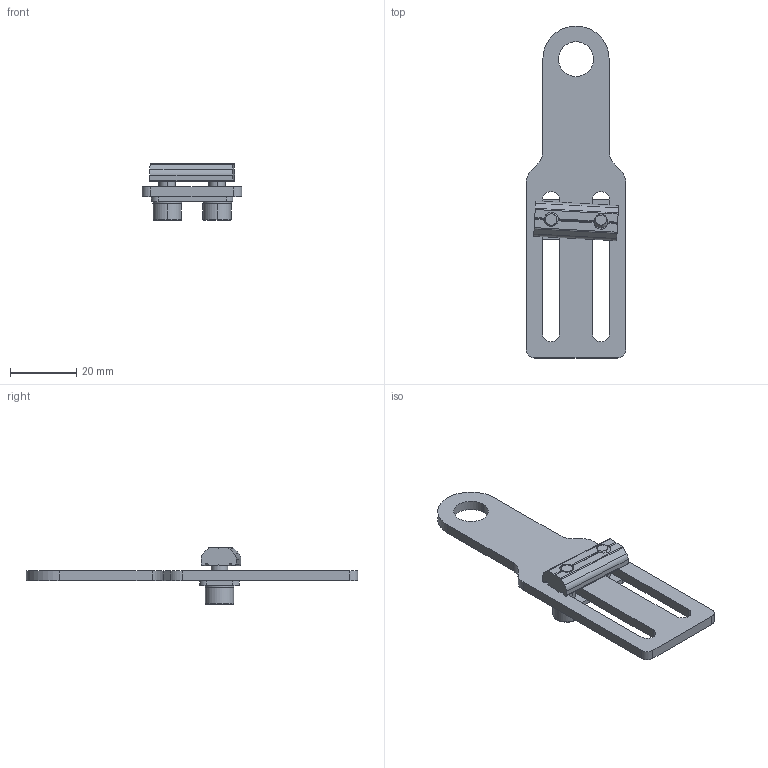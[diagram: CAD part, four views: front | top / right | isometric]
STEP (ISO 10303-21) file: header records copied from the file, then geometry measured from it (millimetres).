
FILE_DESCRIPTION (( 'STEP AP214' ), '1' );
FILE_NAME ('SMBE6-1040.STEP', '2019-11-06T01:49:56', ( '微软用户' ), ( '微软中国' ), 'SwSTEP 2.0', 'SolidWorks 2016', '' );
FILE_SCHEMA (( 'AUTOMOTIVE_DESIGN' ));
Length unit declared in the file: millimetre
Products named in the file (1): SMBE6-1040
Bounding box: 30 x 100 x 17 mm (x, y, z)
Volume: 8380.3 mm3; surface area: 8131 mm2
Topology: 7 solids, 7 shells, 518 faces, 1500 edges, 992 vertices
Faces by surface type: plane 451, cylinder 59, cone 4, bspline 4
Entity records: 23300 total; most frequent: CARTESIAN_POINT 3473, ORIENTED_EDGE 3000, DIRECTION 2972, EDGE_CURVE 1500, AXIS2_PLACEMENT_3D 997, VERTEX_POINT 992, LINE 978, VECTOR 978
